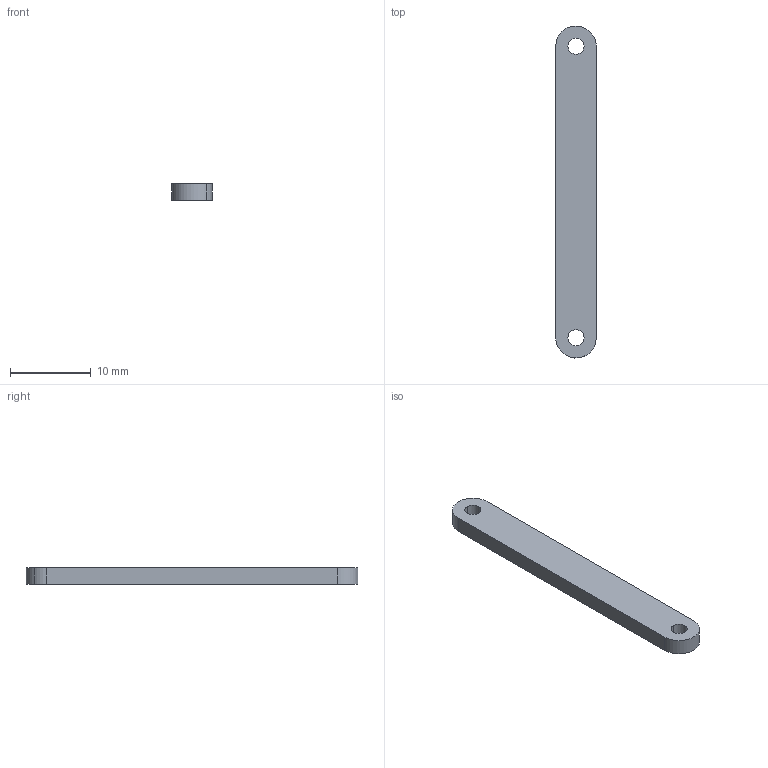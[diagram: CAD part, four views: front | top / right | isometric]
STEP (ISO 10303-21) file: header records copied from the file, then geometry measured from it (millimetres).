
FILE_DESCRIPTION(('STEP AP214'),'1');
FILE_NAME('tmp0.step','2025-04-20T19:47:10',(' '),(' '),'Spatial InterOp 3D',' ',' ');
FILE_SCHEMA(('AUTOMOTIVE_DESIGN { 1 0 10303 214 1 1 1 1 }'));
Length unit declared in the file: millimetre
Products named in the file (1): 1
Bounding box: 5 x 41 x 2 mm (x, y, z)
Volume: 386.7 mm3; surface area: 587.3 mm2
Topology: 1 solids, 1 shells, 12 faces, 30 edges, 20 vertices
Faces by surface type: cylinder 8, plane 4
Entity records: 403 total; most frequent: DIRECTION 72, CARTESIAN_POINT 63, ORIENTED_EDGE 60, EDGE_CURVE 30, AXIS2_PLACEMENT_3D 29, VERTEX_POINT 20, EDGE_LOOP 16, CIRCLE 16
